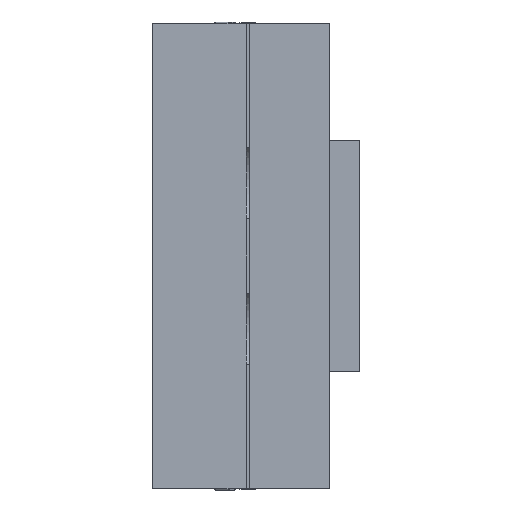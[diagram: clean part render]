
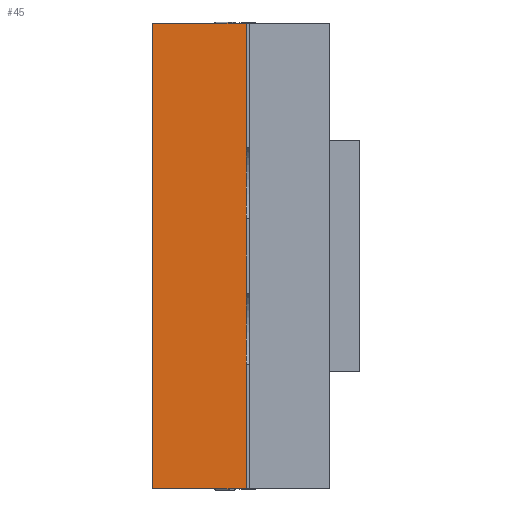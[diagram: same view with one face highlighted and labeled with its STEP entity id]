
A CAD part, left-side view. The second image highlights one B-rep face of the part: STEP entity #45.
In plain terms, the highlighted planar face has unit normal (-1, 0, 0).
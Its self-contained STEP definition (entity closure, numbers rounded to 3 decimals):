
#45 = ADVANCED_FACE ( 'NONE', ( #495 ), #494, .F. ) ;
#46 = EDGE_LOOP ( 'NONE', ( #47, #49, #50, #52 ) ) ;
#47 = ORIENTED_EDGE ( 'NONE', *, *, #48, .T. ) ;
#48 = EDGE_CURVE ( 'NONE', #63, #362, #489, .T. ) ;
#49 = ORIENTED_EDGE ( 'NONE', *, *, #359, .F. ) ;
#50 = ORIENTED_EDGE ( 'NONE', *, *, #51, .F. ) ;
#51 = EDGE_CURVE ( 'NONE', #66, #356, #549, .T. ) ;
#52 = ORIENTED_EDGE ( 'NONE', *, *, #65, .T. ) ;
#63 = VERTEX_POINT ( 'NONE', #531 ) ;
#65 = EDGE_CURVE ( 'NONE', #66, #63, #530, .T. ) ;
#66 = VERTEX_POINT ( 'NONE', #526 ) ;
#356 = VERTEX_POINT ( 'NONE', #1235 ) ;
#359 = EDGE_CURVE ( 'NONE', #356, #362, #1233, .T. ) ;
#362 = VERTEX_POINT ( 'NONE', #1229 ) ;
#489 = LINE ( 'NONE', #552, #551 ) ;
#490 = DIRECTION ( 'NONE',  ( 0., 1., 0. ) ) ;
#491 = DIRECTION ( 'NONE',  ( 1., 0., 0. ) ) ;
#492 = CARTESIAN_POINT ( 'NONE',  ( -3.5, 39.8, 44.75 ) ) ;
#493 = AXIS2_PLACEMENT_3D ( 'NONE', #492, #491, #490 ) ;
#494 = PLANE ( 'NONE',  #493 ) ;
#495 = FACE_OUTER_BOUND ( 'NONE', #46, .T. ) ;
#526 = CARTESIAN_POINT ( 'NONE',  ( -3.5, 39.8, 44.75 ) ) ;
#527 = DIRECTION ( 'NONE',  ( 0., 0., -1. ) ) ;
#528 = VECTOR ( 'NONE', #527, 1000. ) ;
#529 = CARTESIAN_POINT ( 'NONE',  ( -3.5, 39.8, 44.75 ) ) ;
#530 = LINE ( 'NONE', #529, #528 ) ;
#531 = CARTESIAN_POINT ( 'NONE',  ( -3.5, 39.8, -44.75 ) ) ;
#546 = DIRECTION ( 'NONE',  ( 0., -1., 0. ) ) ;
#547 = VECTOR ( 'NONE', #546, 1000. ) ;
#548 = CARTESIAN_POINT ( 'NONE',  ( -3.5, 39.8, 44.75 ) ) ;
#549 = LINE ( 'NONE', #548, #547 ) ;
#550 = DIRECTION ( 'NONE',  ( 0., -1., 0. ) ) ;
#551 = VECTOR ( 'NONE', #550, 1000. ) ;
#552 = CARTESIAN_POINT ( 'NONE',  ( -3.5, 39.8, -44.75 ) ) ;
#1229 = CARTESIAN_POINT ( 'NONE',  ( -3.5, 21.8, -44.75 ) ) ;
#1230 = DIRECTION ( 'NONE',  ( 0., 0., -1. ) ) ;
#1231 = VECTOR ( 'NONE', #1230, 1000. ) ;
#1232 = CARTESIAN_POINT ( 'NONE',  ( -3.5, 21.8, 44.75 ) ) ;
#1233 = LINE ( 'NONE', #1232, #1231 ) ;
#1235 = CARTESIAN_POINT ( 'NONE',  ( -3.5, 21.8, 44.75 ) ) ;
